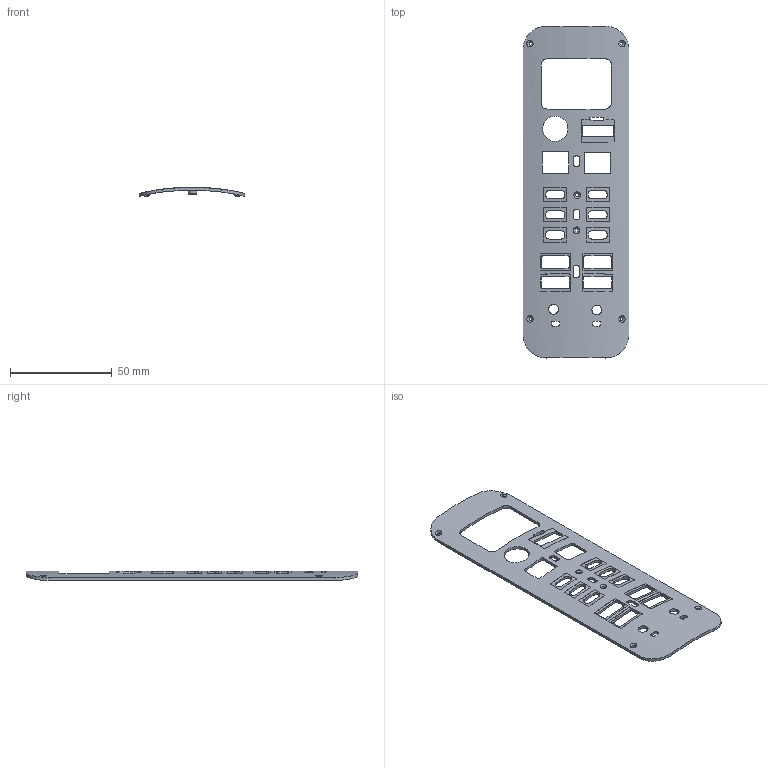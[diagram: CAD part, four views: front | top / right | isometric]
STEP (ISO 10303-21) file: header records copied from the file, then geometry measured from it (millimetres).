
FILE_DESCRIPTION(('Open CASCADE Model'),'2;1');
FILE_NAME('Open CASCADE Shape Model','2026-10-02T16:20:41',('Author'),( 'Open CASCADE'),'Open CASCADE STEP processor 7.9','Open CASCADE 7.9' ,'Unknown');
FILE_SCHEMA(('AUTOMOTIVE_DESIGN { 1 0 10303 214 1 1 1 1 }'));
Length unit declared in the file: millimetre
Products named in the file (1): Open CASCADE STEP translator 7.9 1
Bounding box: 51.9 x 163.1 x 4.7 mm (x, y, z)
Volume: 8953.2 mm3; surface area: 14547.2 mm2
Topology: 1 solids, 1 shells, 277 faces, 771 edges, 512 vertices
Faces by surface type: cylinder 141, plane 124, cone 12
Full cylindrical faces by diameter (mm): 1.8 x6, 2.6 x1, 2.8 x4, 4.2 x1, 4.8 x2, 12.4 x1
Entity records: 27835 total; most frequent: CARTESIAN_POINT 13733, DIRECTION 2192, ORIENTED_EDGE 1542, PCURVE 1542, DEFINITIONAL_REPRESENTATION 1542, LINE 1121, VECTOR 1121, B_SPLINE_CURVE_WITH_KNOTS 810
